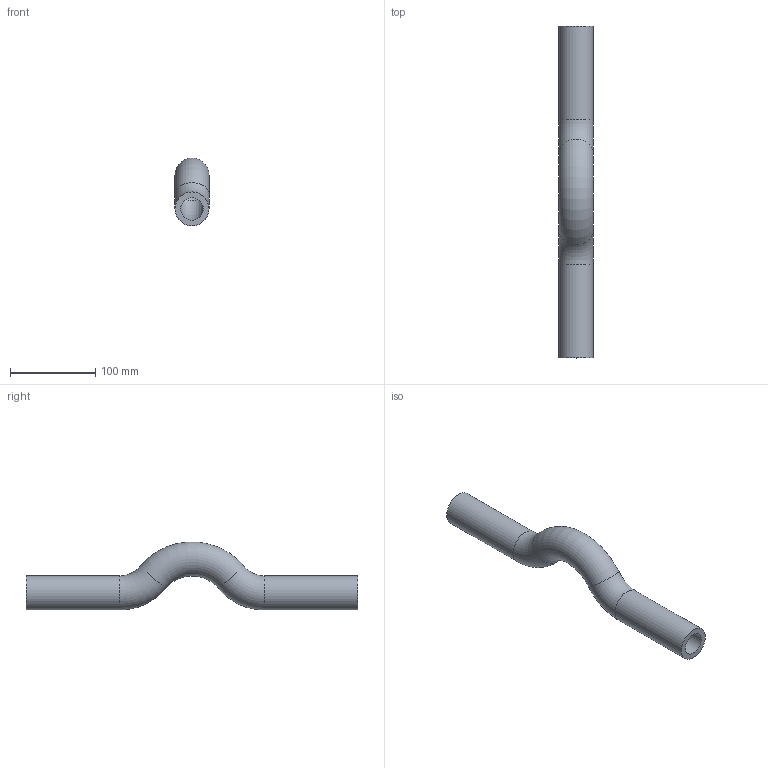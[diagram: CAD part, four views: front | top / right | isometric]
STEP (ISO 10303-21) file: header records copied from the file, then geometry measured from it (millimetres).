
FILE_DESCRIPTION(('STEP AP203'), '1');
FILE_NAME('ÂÐ.747111.027 - VTp.793.0.040', '', ('UNSPECIFIED'), ('UNSPECIFIED'), 'C3D Converter', 'C3D Toolkit', '');
FILE_SCHEMA(('CONFIG_CONTROL_DESIGN'));
Length unit declared in the file: millimetre
Products named in the file (1): ВР.747111.027
Bounding box: 40 x 390 x 79.85 mm (x, y, z)
Volume: 290264.6 mm3; surface area: 88048 mm2
Topology: 1 solids, 1 shells, 12 faces, 22 edges, 12 vertices
Faces by surface type: torus 6, cylinder 4, plane 2
Full cylindrical faces by diameter (mm): 26.6 x2, 40 x2
Entity records: 288 total; most frequent: DIRECTION 50, CARTESIAN_POINT 37, AXIS2_PLACEMENT_3D 25, EDGE_LOOP 24, ORIENTED_EDGE 24, FACE_OUTER_BOUND 20, ADVANCED_FACE 12, EDGE_CURVE 12
